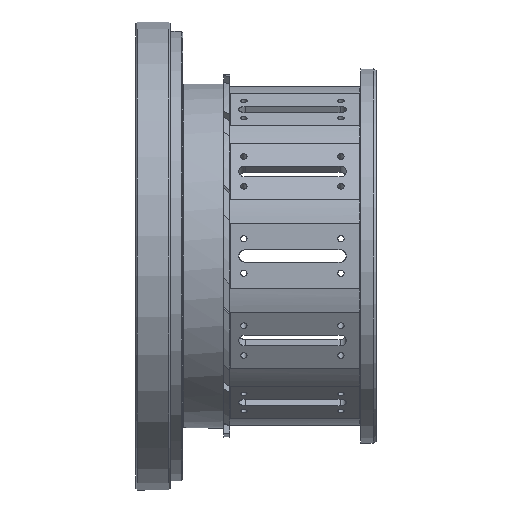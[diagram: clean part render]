
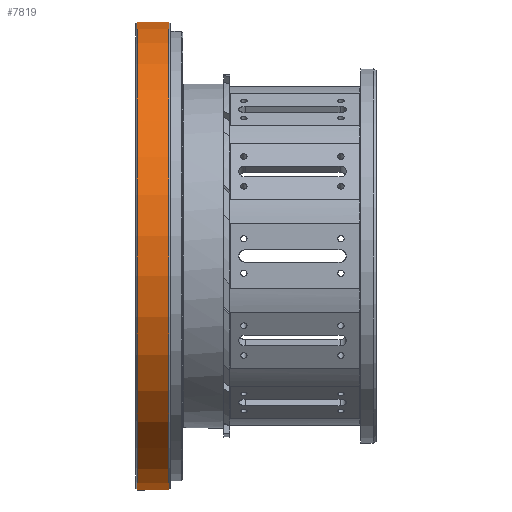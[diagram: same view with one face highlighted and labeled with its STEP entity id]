
A CAD part, front view. The second image highlights one B-rep face of the part: STEP entity #7819.
In plain terms, the highlighted cylindrical face has radius 75 mm (diameter 150 mm), a partial arc.
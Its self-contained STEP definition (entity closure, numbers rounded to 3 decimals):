
#6405=AXIS2_PLACEMENT_3D('Circle Axis2P3D',#6403,#6404,$) ;
#7780=AXIS2_PLACEMENT_3D('Cylinder Axis2P3D',#7777,#7778,#7779) ;
#7810=AXIS2_PLACEMENT_3D('Circle Axis2P3D',#7808,#7809,$) ;
#6373=CARTESIAN_POINT('Vertex',(0.5,53.033,-53.033)) ;
#6375=CARTESIAN_POINT('Vertex',(0.5,19.411,72.444)) ;
#6403=CARTESIAN_POINT('Axis2P3D Location',(0.5,0.,0.)) ;
#7777=CARTESIAN_POINT('Axis2P3D Location',(38.375,0.,0.)) ;
#7782=CARTESIAN_POINT('Line Origine',(38.375,19.411,72.444)) ;
#7786=CARTESIAN_POINT('Vertex',(10.5,19.411,72.444)) ;
#7793=CARTESIAN_POINT('Vertex',(10.5,53.033,-53.033)) ;
#7796=CARTESIAN_POINT('Line Origine',(38.375,53.033,-53.033)) ;
#7808=CARTESIAN_POINT('Axis2P3D Location',(10.5,0.,0.)) ;
#6404=DIRECTION('Axis2P3D Direction',(1.,0.,0.)) ;
#7778=DIRECTION('Axis2P3D Direction',(1.,0.,0.)) ;
#7779=DIRECTION('Axis2P3D XDirection',(0.,0.259,0.966)) ;
#7783=DIRECTION('Vector Direction',(1.,0.,0.)) ;
#7797=DIRECTION('Vector Direction',(1.,0.,0.)) ;
#7809=DIRECTION('Axis2P3D Direction',(1.,0.,0.)) ;
#7784=VECTOR('Line Direction',#7783,1.) ;
#7798=VECTOR('Line Direction',#7797,1.) ;
#7814=ORIENTED_EDGE('',*,*,#7800,.T.) ;
#7815=ORIENTED_EDGE('',*,*,#7812,.F.) ;
#7816=ORIENTED_EDGE('',*,*,#7788,.F.) ;
#7817=ORIENTED_EDGE('',*,*,#6407,.T.) ;
#7819=ADVANCED_FACE('Corps principal',(#7818),#7781,.T.) ;
#6406=CIRCLE('generated circle',#6405,75.) ;
#7811=CIRCLE('generated circle',#7810,75.) ;
#7781=CYLINDRICAL_SURFACE('generated cylinder',#7780,75.) ;
#6407=EDGE_CURVE('',#6376,#6374,#6406,.T.) ;
#7788=EDGE_CURVE('',#6376,#7787,#7785,.T.) ;
#7800=EDGE_CURVE('',#6374,#7794,#7799,.T.) ;
#7812=EDGE_CURVE('',#7787,#7794,#7811,.T.) ;
#7813=EDGE_LOOP('',(#7814,#7815,#7816,#7817)) ;
#7818=FACE_OUTER_BOUND('',#7813,.T.) ;
#7785=LINE('Line',#7782,#7784) ;
#7799=LINE('Line',#7796,#7798) ;
#6374=VERTEX_POINT('',#6373) ;
#6376=VERTEX_POINT('',#6375) ;
#7787=VERTEX_POINT('',#7786) ;
#7794=VERTEX_POINT('',#7793) ;
